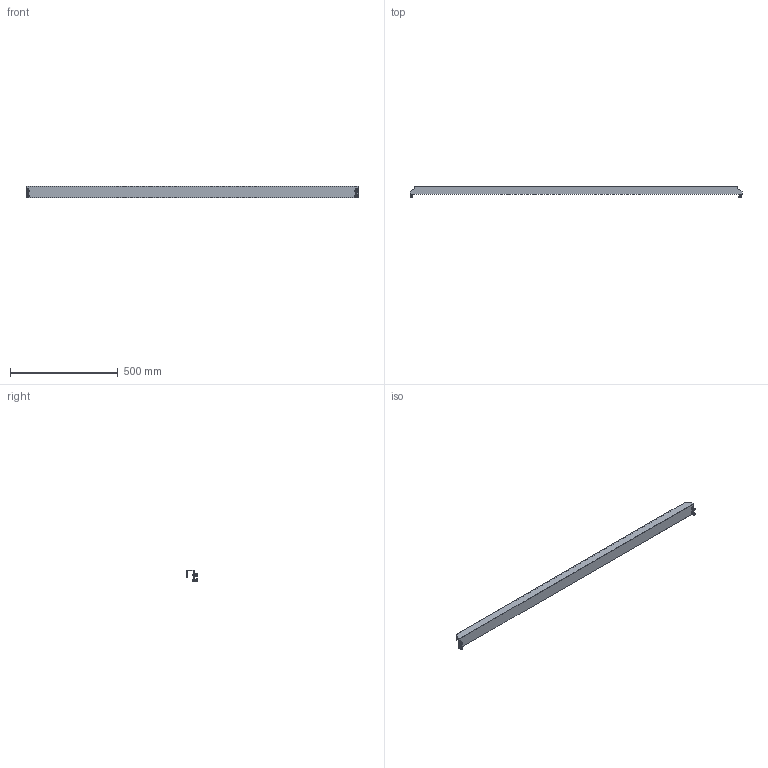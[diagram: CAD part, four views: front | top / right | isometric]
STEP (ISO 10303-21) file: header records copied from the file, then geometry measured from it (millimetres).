
FILE_DESCRIPTION(('Open CASCADE Model'),'2;1');
FILE_NAME('Open CASCADE Shape Model','2025-02-20T14:06:12',('Author'),( 'Open CASCADE'),'Open CASCADE STEP processor 7.8','Open CASCADE 7.8' ,'Unknown');
FILE_SCHEMA(('AUTOMOTIVE_DESIGN { 1 0 10303 214 1 1 1 1 }'));
Length unit declared in the file: millimetre
Products named in the file (4): Compound1; Solid1; Solid2; Solid3
Assembly tree (9 placements, depth 2):
  Compound1
    Solid1
    Solid2  x4
    Solid3  x4
Bounding box: 1540 x 50 x 55.58 mm (x, y, z)
Volume: 518085.7 mm3; surface area: 368458 mm2
Topology: 13 solids, 13 shells, 1022 faces, 2744 edges, 1740 vertices
Faces by surface type: plane 472, cylinder 282, bspline 168, torus 56, cone 40, sphere 4
Full cylindrical faces by diameter (mm): 6 x4, 6.5 x4, 8.3 x4, 12 x4
Entity records: 18670 total; most frequent: CARTESIAN_POINT 6506, ORIENTED_EDGE 2594, DIRECTION 2380, EDGE_CURVE 1297, VERTEX_POINT 843, AXIS2_PLACEMENT_3D 808, LINE 764, VECTOR 764
